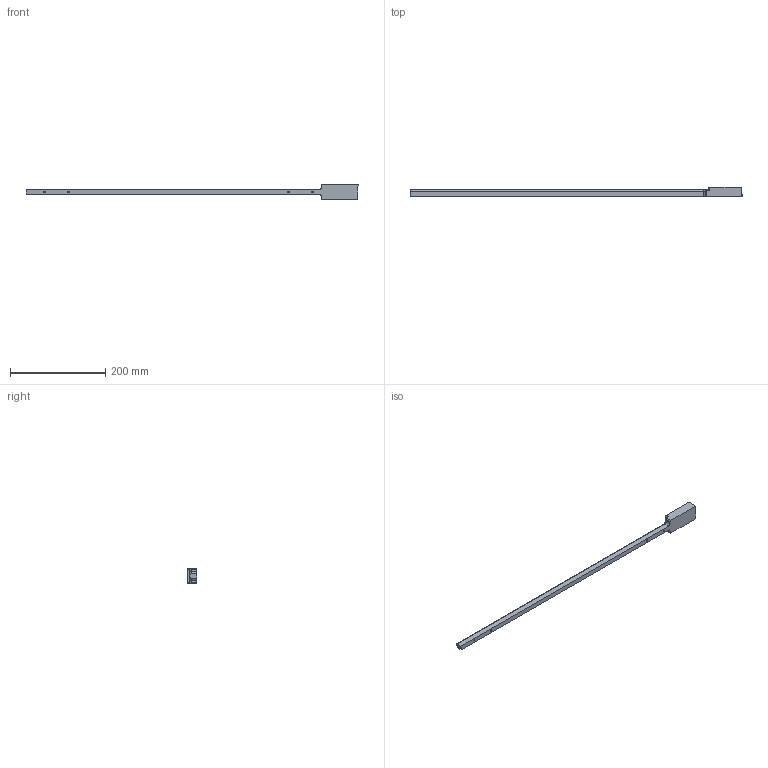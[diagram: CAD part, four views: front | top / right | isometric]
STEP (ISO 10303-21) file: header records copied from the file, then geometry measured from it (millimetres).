
FILE_DESCRIPTION (( 'STEP AP214' ), '1' );
FILE_NAME ('LL-600.STEP', '2026-02-06T16:24:13', ( '' ), ( '' ), 'SwSTEP 2.0', 'SolidWorks 2022', '' );
FILE_SCHEMA (( 'AUTOMOTIVE_DESIGN' ));
Length unit declared in the file: millimetre
Products named in the file (1): LL-600
Bounding box: 695.5 x 20 x 32.5 mm (x, y, z)
Volume: 131288.6 mm3; surface area: 43330.1 mm2
Topology: 1 solids, 1 shells, 175 faces, 453 edges, 296 vertices
Faces by surface type: plane 151, cylinder 16, cone 8
Full cylindrical faces by diameter (mm): 2.5 x2, 3 x2
Entity records: 6325 total; most frequent: CARTESIAN_POINT 924, ORIENTED_EDGE 874, DIRECTION 815, EDGE_CURVE 437, LINE 397, VECTOR 397, VERTEX_POINT 290, AXIS2_PLACEMENT_3D 209
